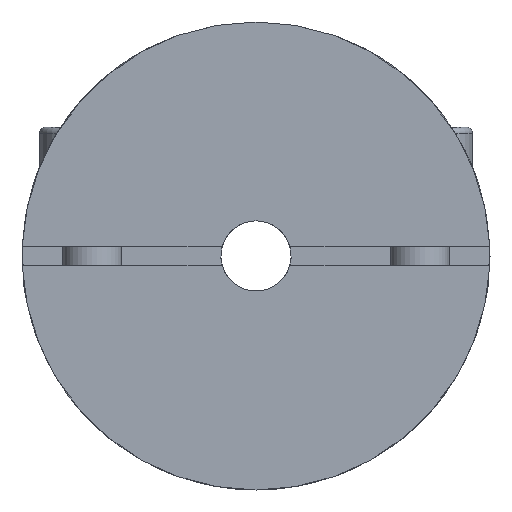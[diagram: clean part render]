
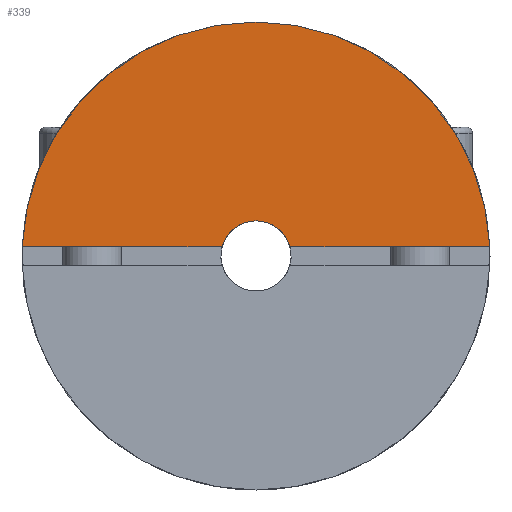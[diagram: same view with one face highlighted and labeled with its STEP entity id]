
A CAD part, left-side view. The second image highlights one B-rep face of the part: STEP entity #339.
In plain terms, the highlighted planar face has unit normal (-1, 0, 0) as drawn and (1, 0, 0) by its records, which use the part's own axes.
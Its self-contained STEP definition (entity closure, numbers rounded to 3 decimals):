
#339 = ADVANCED_FACE( '', ( #709 ), #710, .T. );
#709 = FACE_OUTER_BOUND( '', #1212, .T. );
#710 = PLANE( '', #1213 );
#1212 = EDGE_LOOP( '', ( #1788, #1789, #1790, #1791 ) );
#1213 = AXIS2_PLACEMENT_3D( '', #1792, #1793, #1794 );
#1788 = ORIENTED_EDGE( '', *, *, #2491, .F. );
#1789 = ORIENTED_EDGE( '', *, *, #2492, .F. );
#1790 = ORIENTED_EDGE( '', *, *, #2445, .F. );
#1791 = ORIENTED_EDGE( '', *, *, #2493, .T. );
#1792 = CARTESIAN_POINT( '', ( 8.5, 0., 10. ) );
#1793 = DIRECTION( '', ( 1., 0., 0. ) );
#1794 = DIRECTION( '', ( 0., 0., -1. ) );
#2445 = EDGE_CURVE( '', #2775, #2770, #2777, .T. );
#2491 = EDGE_CURVE( '', #2847, #2848, #2849, .T. );
#2492 = EDGE_CURVE( '', #2770, #2847, #2850, .T. );
#2493 = EDGE_CURVE( '', #2775, #2848, #2851, .T. );
#2770 = VERTEX_POINT( '', #3345 );
#2775 = VERTEX_POINT( '', #3352 );
#2777 = LINE( '', #3355, #3356 );
#2847 = VERTEX_POINT( '', #3433 );
#2848 = VERTEX_POINT( '', #3434 );
#2849 = LINE( '', #3435, #3436 );
#2850 = CIRCLE( '', #3437, 10. );
#2851 = CIRCLE( '', #3438, 1.5 );
#3345 = CARTESIAN_POINT( '', ( 8.5, -9.992, 0.4 ) );
#3352 = CARTESIAN_POINT( '', ( 8.5, -1.446, 0.4 ) );
#3355 = CARTESIAN_POINT( '', ( 8.5, 0., 0.4 ) );
#3356 = VECTOR( '', #3835, 1000. );
#3433 = CARTESIAN_POINT( '', ( 8.5, 9.992, 0.4 ) );
#3434 = CARTESIAN_POINT( '', ( 8.5, 1.446, 0.4 ) );
#3435 = CARTESIAN_POINT( '', ( 8.5, 0., 0.4 ) );
#3436 = VECTOR( '', #3906, 1000. );
#3437 = AXIS2_PLACEMENT_3D( '', #3907, #3908, #3909 );
#3438 = AXIS2_PLACEMENT_3D( '', #3910, #3911, #3912 );
#3835 = DIRECTION( '', ( 0., -1., 0. ) );
#3906 = DIRECTION( '', ( 0., -1., 0. ) );
#3907 = CARTESIAN_POINT( '', ( 8.5, 0., 0. ) );
#3908 = DIRECTION( '', ( -1., 0., 0. ) );
#3909 = DIRECTION( '', ( 0., 0., 1. ) );
#3910 = CARTESIAN_POINT( '', ( 8.5, 0., 0. ) );
#3911 = DIRECTION( '', ( -1., 0., 0. ) );
#3912 = DIRECTION( '', ( 0., 0., 1. ) );
